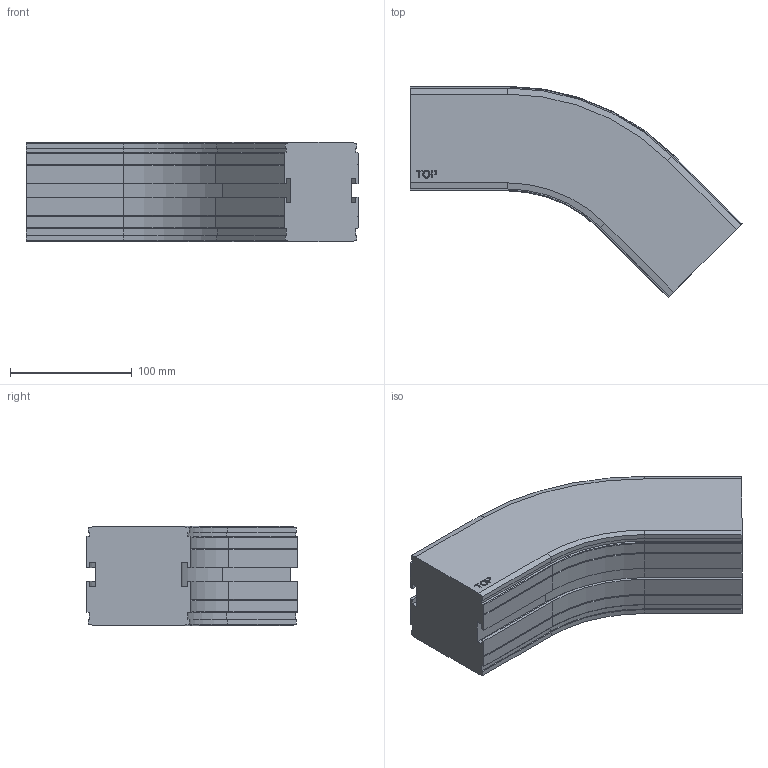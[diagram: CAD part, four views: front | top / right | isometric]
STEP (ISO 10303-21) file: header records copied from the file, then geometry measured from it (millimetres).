
FILE_DESCRIPTION((''),'2;1');
FILE_NAME('C:\Vault Klient\Projekt\Koncept konstruktion\Serie 830 Balk\830-5100.stp','2009-11-27T08:11:25',('Mathias'),(''),'Autodesk Inventor 2010','Autodesk Inventor 2010','');
FILE_SCHEMA(('AUTOMOTIVE_DESIGN { 1 0 10303 214 1 1 1 1 }'));
Length unit declared in the file: millimetre
Products named in the file (1): 830-5100
Bounding box: 273.04 x 173.91 x 81.5 mm (x, y, z)
Volume: 1846566.5 mm3; surface area: 126813.9 mm2
Topology: 1 solids, 1 shells, 169 faces, 446 edges, 284 vertices
Faces by surface type: plane 109, cylinder 30, bspline 14, cone 12, torus 4
Entity records: 5295 total; most frequent: CARTESIAN_POINT 1094, ORIENTED_EDGE 892, DIRECTION 802, EDGE_CURVE 446, VECTOR 346, LINE 346, VERTEX_POINT 284, AXIS2_PLACEMENT_3D 228
